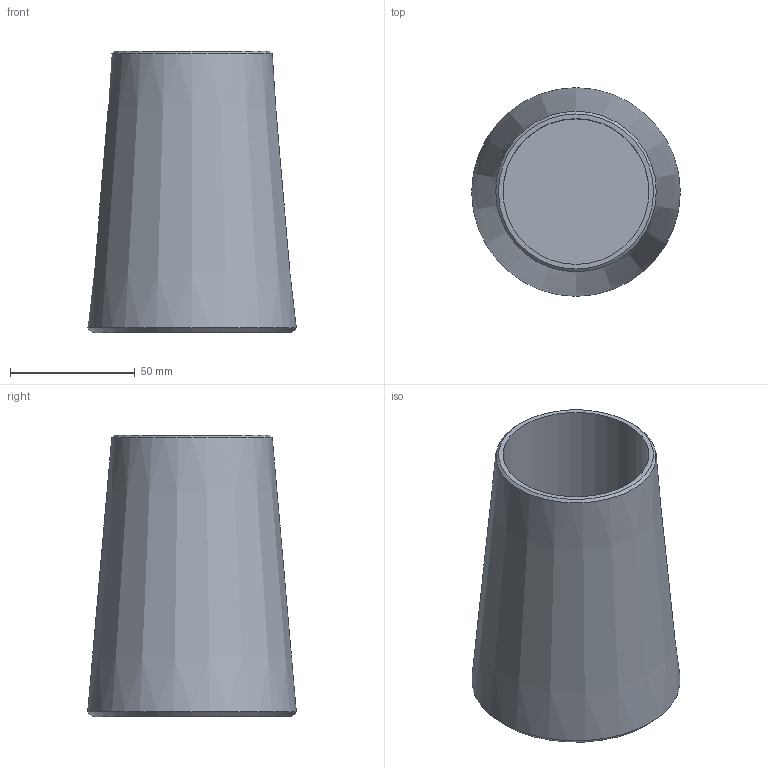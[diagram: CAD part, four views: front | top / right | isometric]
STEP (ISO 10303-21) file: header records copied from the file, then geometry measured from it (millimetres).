
FILE_DESCRIPTION(/* description */ (''),/* implementation_level */ '2;1');
FILE_NAME(/* name */ 'C:\Vault_WS\Designs\SB\01-PX\Verzinkt\ZSS\520 - Kontermutter\520-056-KMU.stp',/* time_stamp */ '2020-06-18T12:34:53+02:00',/* author */ ('schwarz'),/* organization */ (''),/* preprocessor_version */ 'ST-DEVELOPER v16.1',/* originating_system */ 'Autodesk Inventor 2016',/* authorisation */ '');
FILE_SCHEMA (('AUTOMOTIVE_DESIGN { 1 0 10303 214 3 1 1 }'));
Length unit declared in the file: millimetre
Products named in the file (1): Kontermutter 520 056 Kunde
Bounding box: 83.65 x 83.65 x 113 mm (x, y, z)
Volume: 261300.3 mm3; surface area: 50359.5 mm2
Topology: 1 solids, 1 shells, 7 faces, 10 edges, 6 vertices
Faces by surface type: cone 3, plane 3, cylinder 1
Full cylindrical faces by diameter (mm): 58.5 x1
Entity records: 158 total; most frequent: DIRECTION 28, CARTESIAN_POINT 20, AXIS2_PLACEMENT_3D 14, EDGE_LOOP 12, ORIENTED_EDGE 12, FACE_OUTER_BOUND 7, ADVANCED_FACE 7, CIRCLE 6
